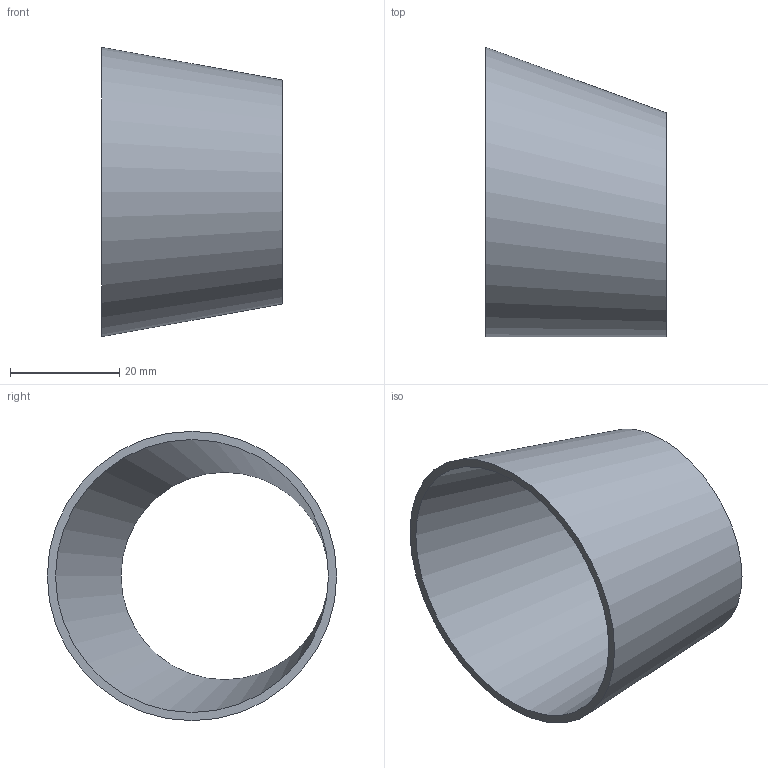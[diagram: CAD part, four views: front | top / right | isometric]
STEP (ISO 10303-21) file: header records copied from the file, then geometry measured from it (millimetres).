
FILE_DESCRIPTION(('FreeCAD Model'),'2;1');
FILE_NAME( '/home/martin/Documents/proyect/accesorios/stp/red-exc_DN50-40.step', '2017-12-31T13:03:47',('Author'),(''), 'Open CASCADE STEP processor 6.8','FreeCAD','Unknown');
FILE_SCHEMA(('AUTOMOTIVE_DESIGN_CC2 { 1 2 10303 214 -1 1 5 4 }'));
Length unit declared in the file: millimetre
Products named in the file (1): red-exc_DN50-40
Bounding box: 33 x 53 x 53 mm (x, y, z)
Volume: 7075.7 mm3; surface area: 10091.6 mm2
Topology: 1 solids, 1 shells, 4 faces, 6 edges, 4 vertices
Faces by surface type: bspline 2, plane 2
Entity records: 247 total; most frequent: CARTESIAN_POINT 87, DIRECTION 26, ORIENTED_EDGE 12, PCURVE 12, DEFINITIONAL_REPRESENTATION 12, CIRCLE 8, LINE 8, VECTOR 8
